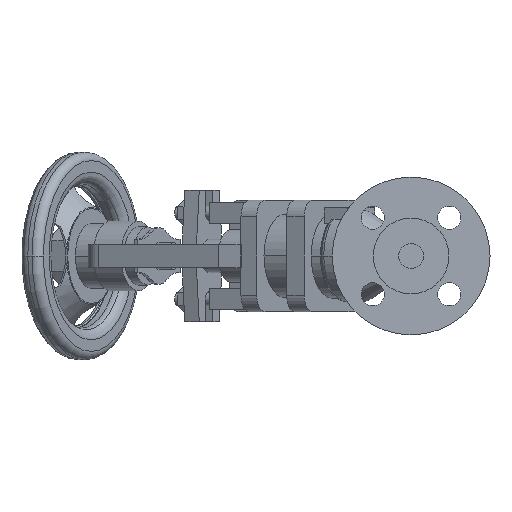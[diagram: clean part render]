
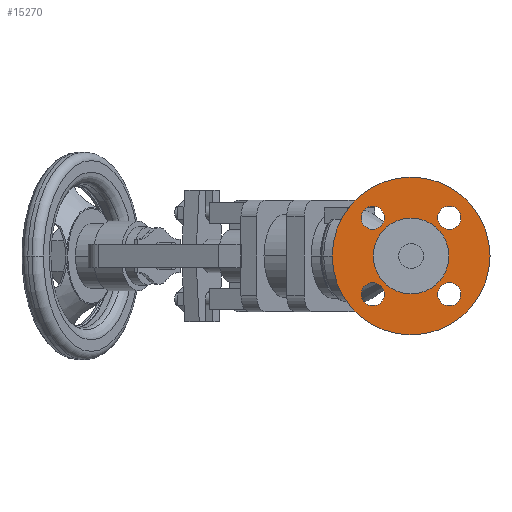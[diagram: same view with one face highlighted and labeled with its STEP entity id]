
A CAD part, left-side view. The second image highlights one B-rep face of the part: STEP entity #15270.
In plain terms, the highlighted planar face has unit normal (-1, 0, 0).
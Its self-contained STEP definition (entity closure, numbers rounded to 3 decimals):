
#4570=CARTESIAN_POINT('',(2.74,22.815,0.));
#4580=VERTEX_POINT('',#4570);
#4610=CARTESIAN_POINT('',(2.74,0.,0.));
#4620=DIRECTION('',(-1.,0.,0.));
#4630=DIRECTION('',(0.,1.,0.));
#4640=AXIS2_PLACEMENT_3D('',#4610,#4620,#4630);
#4650=CIRCLE('',#4640,22.815);
#4660=CARTESIAN_POINT('',(2.74,-22.815,0.));
#4670=VERTEX_POINT('',#4660);
#4680=EDGE_CURVE('',#4670,#4580,#4650,.T.);
#6490=CARTESIAN_POINT('',(2.74,0.,47.5));
#6500=VERTEX_POINT('',#6490);
#6680=CARTESIAN_POINT('',(2.74,0.,-47.5));
#6690=VERTEX_POINT('',#6680);
#6720=CARTESIAN_POINT('',(2.74,0.,0.));
#6730=DIRECTION('',(1.,0.,0.));
#6740=DIRECTION('',(0.,0.,-1.));
#6750=AXIS2_PLACEMENT_3D('',#6720,#6730,#6740);
#6760=CIRCLE('',#6750,47.5);
#6770=EDGE_CURVE('',#6500,#6690,#6760,.T.);
#6980=CARTESIAN_POINT('',(2.74,22.981,-29.981));
#6990=VERTEX_POINT('',#6980);
#7040=CARTESIAN_POINT('',(2.74,22.981,-22.981));
#7050=DIRECTION('',(-1.,0.,0.));
#7060=DIRECTION('',(0.,0.,-1.));
#7070=AXIS2_PLACEMENT_3D('',#7040,#7050,#7060);
#7080=CIRCLE('',#7070,7.);
#7090=CARTESIAN_POINT('',(2.74,22.981,-15.981));
#7100=VERTEX_POINT('',#7090);
#7110=EDGE_CURVE('',#7100,#6990,#7080,.T.);
#7470=CARTESIAN_POINT('',(2.74,-22.981,-15.981));
#7480=VERTEX_POINT('',#7470);
#7660=CARTESIAN_POINT('',(2.74,-22.981,-29.981));
#7670=VERTEX_POINT('',#7660);
#7700=CARTESIAN_POINT('',(2.74,-22.981,-22.981));
#7710=DIRECTION('',(-1.,0.,0.));
#7720=DIRECTION('',(0.,0.,-1.));
#7730=AXIS2_PLACEMENT_3D('',#7700,#7710,#7720);
#7740=CIRCLE('',#7730,7.);
#7750=EDGE_CURVE('',#7480,#7670,#7740,.T.);
#7960=CARTESIAN_POINT('',(2.74,22.981,15.981));
#7970=VERTEX_POINT('',#7960);
#8150=CARTESIAN_POINT('',(2.74,22.981,29.981));
#8160=VERTEX_POINT('',#8150);
#8190=CARTESIAN_POINT('',(2.74,22.981,22.981));
#8200=DIRECTION('',(-1.,0.,0.));
#8210=DIRECTION('',(0.,0.,-1.));
#8220=AXIS2_PLACEMENT_3D('',#8190,#8200,#8210);
#8230=CIRCLE('',#8220,7.);
#8240=EDGE_CURVE('',#7970,#8160,#8230,.T.);
#8450=CARTESIAN_POINT('',(2.74,-22.981,15.981));
#8460=VERTEX_POINT('',#8450);
#8510=CARTESIAN_POINT('',(2.74,-22.981,22.981));
#8520=DIRECTION('',(-1.,0.,0.));
#8530=DIRECTION('',(0.,0.,-1.));
#8540=AXIS2_PLACEMENT_3D('',#8510,#8520,#8530);
#8550=CIRCLE('',#8540,7.);
#8560=CARTESIAN_POINT('',(2.74,-22.981,29.981));
#8570=VERTEX_POINT('',#8560);
#8580=EDGE_CURVE('',#8570,#8460,#8550,.T.);
#14920=CARTESIAN_POINT('',(2.74,0.,0.));
#14930=DIRECTION('',(1.,0.,0.));
#14940=DIRECTION('',(0.,0.,-1.));
#14950=AXIS2_PLACEMENT_3D('',#14920,#14930,#14940);
#14960=PLANE('',#14950);
#14970=ORIENTED_EDGE('',*,*,#8580,.F.);
#14980=EDGE_CURVE('',#8460,#8570,#8550,.T.);
#14990=ORIENTED_EDGE('',*,*,#14980,.F.);
#15000=EDGE_LOOP('',(#14990,#14970));
#15010=FACE_BOUND('',#15000,.T.);
#15020=EDGE_CURVE('',#8160,#7970,#8230,.T.);
#15030=ORIENTED_EDGE('',*,*,#15020,.F.);
#15040=ORIENTED_EDGE('',*,*,#8240,.F.);
#15050=EDGE_LOOP('',(#15040,#15030));
#15060=FACE_BOUND('',#15050,.T.);
#15070=EDGE_CURVE('',#7670,#7480,#7740,.T.);
#15080=ORIENTED_EDGE('',*,*,#15070,.F.);
#15090=ORIENTED_EDGE('',*,*,#7750,.F.);
#15100=EDGE_LOOP('',(#15090,#15080));
#15110=FACE_BOUND('',#15100,.T.);
#15120=ORIENTED_EDGE('',*,*,#7110,.F.);
#15130=EDGE_CURVE('',#6990,#7100,#7080,.T.);
#15140=ORIENTED_EDGE('',*,*,#15130,.F.);
#15150=EDGE_LOOP('',(#15140,#15120));
#15160=FACE_BOUND('',#15150,.T.);
#15170=EDGE_CURVE('',#6690,#6500,#6760,.T.);
#15180=ORIENTED_EDGE('',*,*,#15170,.F.);
#15190=ORIENTED_EDGE('',*,*,#6770,.F.);
#15200=EDGE_LOOP('',(#15190,#15180));
#15210=FACE_OUTER_BOUND('',#15200,.T.);
#15220=EDGE_CURVE('',#4580,#4670,#4650,.T.);
#15230=ORIENTED_EDGE('',*,*,#15220,.F.);
#15240=ORIENTED_EDGE('',*,*,#4680,.F.);
#15250=EDGE_LOOP('',(#15240,#15230));
#15260=FACE_BOUND('',#15250,.T.);
#15270=ADVANCED_FACE('',(#15010,#15060,#15110,#15160,#15210,#15260),
#14960,.F.);
